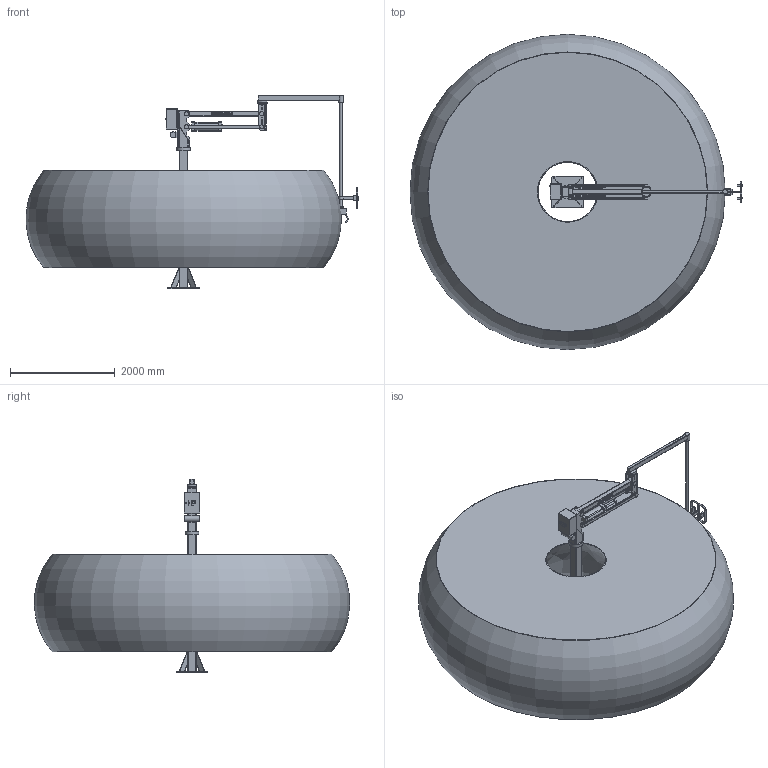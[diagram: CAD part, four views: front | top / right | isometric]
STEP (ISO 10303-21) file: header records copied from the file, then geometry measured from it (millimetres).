
FILE_DESCRIPTION( ( 'Unknown' ), '1' );
FILE_NAME( 'C:/Users/User/HandlingProfi/Marketing/Website/CAD-Modelle/Parallelogramm-Manipulator.stp', 'Unknown', ( 'Clemens Mildner' ), ( 'HandlingProfi' ), 'PSStep 16.0.42', 'Siemens Solid Edge ST6', ' ' );
FILE_SCHEMA( ( 'AUTOMOTIVE_DESIGN { 1 0 10303 214 1 1 1 1 }' ) );
Length unit declared in the file: millimetre
Products named in the file (18): Assem1; Säule; Schwenkdrehlager; Oberarm; Unterarm; Knickdrehlager; Knickarm; Vertikalrohr; Bedienbügel; Greifer; Arbeitsraum
Assembly tree (17 placements, depth 2):
  Assem1
    Säule
    Schwenkdrehlager
    Schwenkdrehlager
    Schwenkdrehlager
    Oberarm
    Unterarm
    Unterarm
    Unterarm
    Knickdrehlager
    Knickarm
    Knickarm
    Vertikalrohr
    Bedienbügel
    Bedienbügel
    Bedienbügel
    Greifer
    Arbeitsraum
Bounding box: 6326.19 x 6008.38 x 3691 mm (x, y, z)
Volume: 1037958868.2 mm3; surface area: 187697931 mm2
Topology: 17 solids, 20 shells, 624 faces, 1498 edges, 992 vertices
Faces by surface type: plane 304, cylinder 170, extrusion 127, torus 18, bspline 4, cone 1
Full cylindrical faces by diameter (mm): 16 x4, 20 x4, 26 x4, 30 x4, 35 x4, 40 x1, 50 x2, 60 x2, 77 x4, 80 x16, 90 x1, 100 x3, 110 x1, 120 x2, 160 x1, 170 x1, 175 x1, 180 x1, 260 x1
Entity records: 32695 total; most frequent: CARTESIAN_POINT 13668, ORIENTED_EDGE 2730, DIRECTION 2572, EDGE_CURVE 1365, VERTEX_POINT 952, AXIS2_PLACEMENT_3D 870, EDGE_LOOP 837, VECTOR 832
